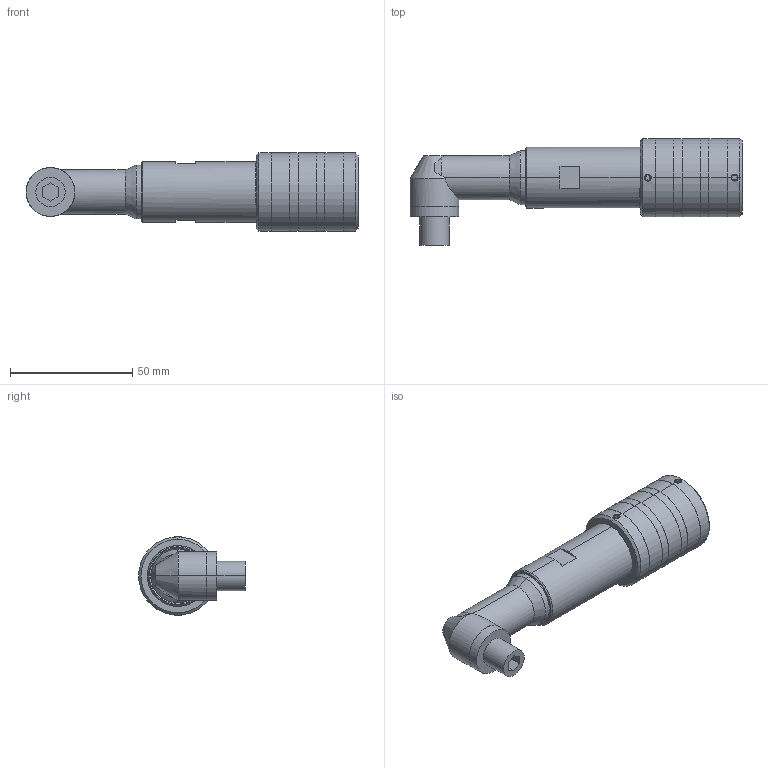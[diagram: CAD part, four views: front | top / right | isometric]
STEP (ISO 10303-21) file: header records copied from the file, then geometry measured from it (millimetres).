
FILE_DESCRIPTION (( 'STEP AP214' ), '1' );
FILE_NAME ('Testina Raf HD9.STEP', '2013-06-20T15:34:10', ( '' ), ( '' ), 'SwSTEP 2.0', 'SolidWorks 2013', '' );
FILE_SCHEMA (( 'AUTOMOTIVE_DESIGN' ));
Length unit declared in the file: millimetre
Products named in the file (1): Testina Raf HD9
Bounding box: 135.7 x 43.7 x 32 mm (x, y, z)
Volume: 49275.9 mm3; surface area: 25866.1 mm2
Topology: 8 solids, 8 shells, 819 faces, 2304 edges, 1516 vertices
Faces by surface type: cylinder 368, bspline 280, plane 133, cone 24, torus 14
Entity records: 151109 total; most frequent: CARTESIAN_POINT 124666, ORIENTED_EDGE 4608, DIRECTION 2405, EDGE_CURVE 2304, VERTEX_POINT 1516, VECTOR 881, LINE 881, EDGE_LOOP 846
